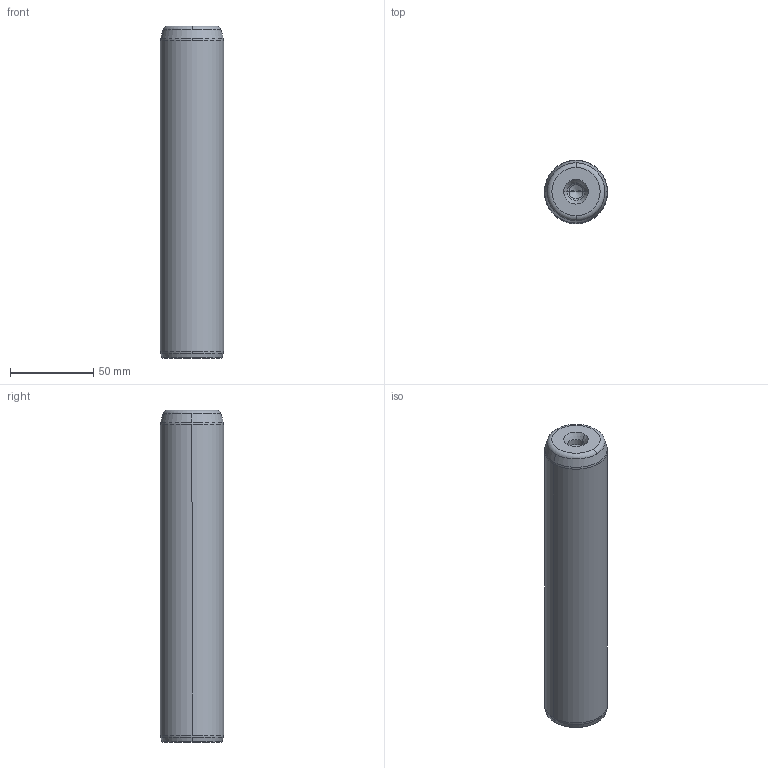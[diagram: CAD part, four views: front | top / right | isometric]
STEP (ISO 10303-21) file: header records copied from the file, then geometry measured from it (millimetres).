
FILE_DESCRIPTION((''),'2;1');
FILE_NAME('P10_038_200.stp','2008-12-23T15:14:46',(''),(''),'Mechanical Desktop 2009','Mechanical Desktop 2009',', , ');
FILE_SCHEMA(('CONFIG_CONTROL_DESIGN'));
Length unit declared in the file: millimetre
Products named in the file (5): Product; ProductAA; blmdl1; ProductA; blmdl1A
Assembly tree (2 placements, depth 3):
  Product
    ProductAA
      blmdl1
  ProductA
  blmdl1A
Bounding box: 38 x 38 x 200 mm (x, y, z)
Volume: 223389.8 mm3; surface area: 26496.4 mm2
Topology: 1 solids, 1 shells, 26 faces, 66 edges, 41 vertices
Faces by surface type: cone 10, torus 8, cylinder 6, plane 2
Entity records: 1012 total; most frequent: DIRECTION 170, CARTESIAN_POINT 134, ORIENTED_EDGE 128, AXIS2_PLACEMENT_3D 77, EDGE_CURVE 64, CIRCLE 48, VERTEX_POINT 41, EDGE_LOOP 27
